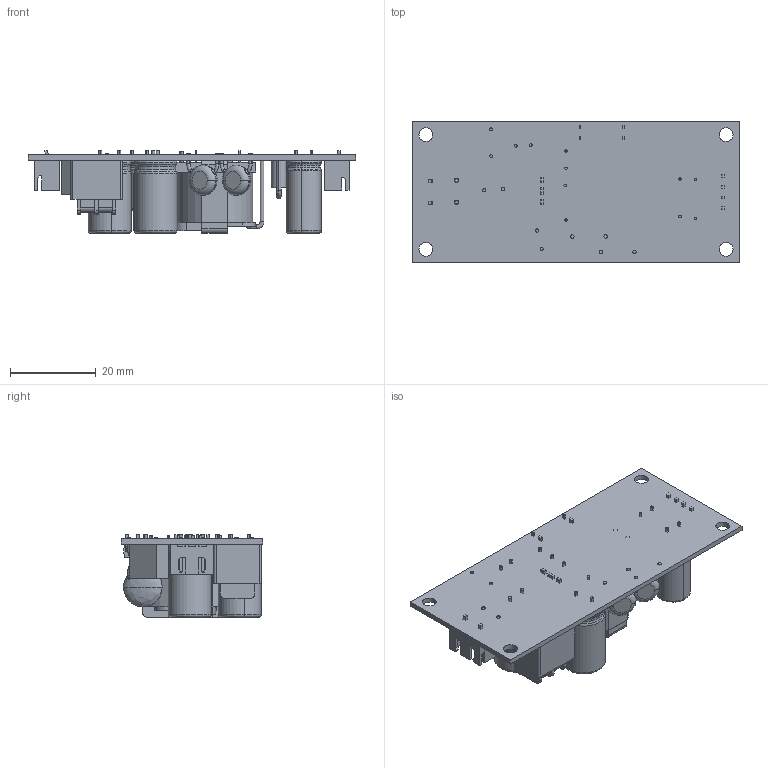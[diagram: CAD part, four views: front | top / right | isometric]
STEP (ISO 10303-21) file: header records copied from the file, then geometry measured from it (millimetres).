
FILE_DESCRIPTION (( 'STEP AP203' ), '1' );
FILE_NAME ('CFM20SXXX-T ¦¨«~¹Ï (M-B114-F)(V1.0)-1130709.STEP', '2024-08-20T00:34:11', ( 'cincon' ), ( '' ), 'SwSTEP 2.0', 'SolidWorks 2020', '' );
FILE_SCHEMA (( 'CONFIG_CONTROL_DESIGN' ));
Length unit declared in the file: millimetre
Products named in the file (16): CFM04 CY1示意圖; CFM20SXXX-T 成品圖 (M-B114-F)(V1.0)-1130709; D4; CFM12S-T 4PIN插座示意圖; CFM20S變壓器-1100816; 8.2x17mm電容; Electrolitic Capacitor Radial 10x17; CFM20 L1示意圖-1090826; CFM12S-T 3PIN插座示意圖; 電晶體FCH10A20 TO-220F示意圖; CFM20-T PCB(V1.2)-1101126; Electrolitic Capacitor Radial (5X11.8); CFM40M UZ2 990210; 電晶體 105,04,14
Assembly tree (16 placements, depth 2):
  CFM20SXXX-T 成品圖 (M-B114-F)(V1.0)-1130709
    D4
    CFM20S變壓器-1100816
    Electrolitic Capacitor Radial (5X11.8)
    電晶體 105,04,14
    電晶體FCH10A20 TO-220F示意圖
    8.2x17mm電容
    8.2x17mm電容
    Electrolitic Capacitor Radial 10x17
    Electrolitic Capacitor Radial 10x17
    CFM04 CY1示意圖  x2
    CFM40M UZ2 990210
    CFM20 L1示意圖-1090826
    CFM20-T PCB(V1.2)-1101126
    CFM12S-T 4PIN插座示意圖
    CFM12S-T 3PIN插座示意圖
Bounding box: 76.2 x 33.02 x 19.26 mm (x, y, z)
Volume: 14666.8 mm3; surface area: 15605.6 mm2
Topology: 21 solids, 21 shells, 862 faces, 2144 edges, 1361 vertices
Faces by surface type: plane 520, cylinder 202, torus 104, bspline 36
Entity records: 27774 total; most frequent: CARTESIAN_POINT 5862, DIRECTION 4271, ORIENTED_EDGE 4148, EDGE_CURVE 2074, AXIS2_PLACEMENT_3D 1431, LINE 1409, VECTOR 1409, VERTEX_POINT 1321
